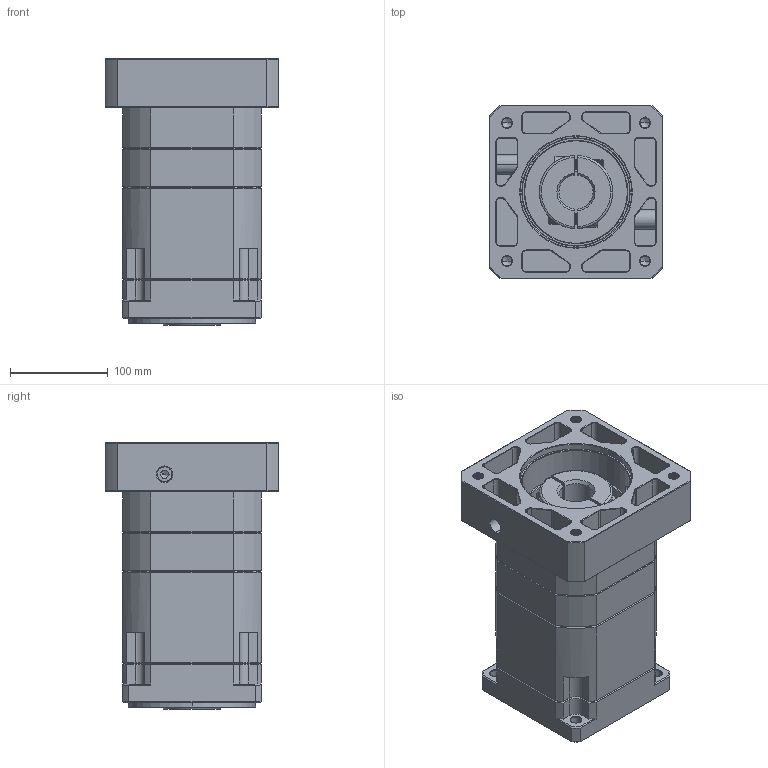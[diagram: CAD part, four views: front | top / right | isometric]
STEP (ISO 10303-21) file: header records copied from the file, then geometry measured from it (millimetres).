
FILE_DESCRIPTION (( 'STEP AP214' ), '1' );
FILE_NAME ('ZB142A-K35-L3-P2-35-114.3-200-M12.step', '2023-09-01T11:48:48', ( '' ), ( '' ), 'SwSTEP 2.0', 'SolidWorks 2016', '' );
FILE_SCHEMA (( 'AUTOMOTIVE_DESIGN' ));
Length unit declared in the file: millimetre
Products named in the file (1): ZB142A-K35-L3-P2-35-114.3-200-M12
Bounding box: 178 x 178 x 273.2 mm (x, y, z)
Volume: 4903988.3 mm3; surface area: 386370.9 mm2
Topology: 6 solids, 6 shells, 2439 faces, 6484 edges, 4156 vertices
Faces by surface type: plane 1198, cylinder 424, bspline 404, cone 393, torus 20
Entity records: 130725 total; most frequent: CARTESIAN_POINT 46172, ORIENTED_EDGE 12912, DIRECTION 10536, EDGE_CURVE 6456, VERTEX_POINT 4156, LINE 4134, VECTOR 4134, AXIS2_PLACEMENT_3D 3201
